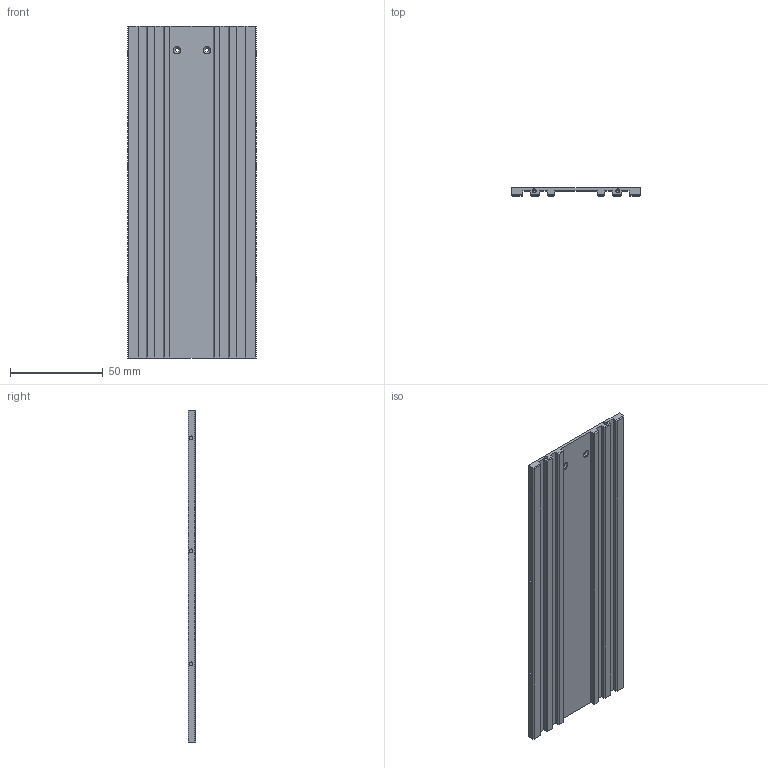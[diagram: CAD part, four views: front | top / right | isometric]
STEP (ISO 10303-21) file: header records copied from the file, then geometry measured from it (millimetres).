
FILE_DESCRIPTION (( 'STEP AP214' ), '1' );
FILE_NAME ('电池盒1-.STEP', '2026-09-29T00:54:13', ( '微软用户' ), ( '微软中国' ), 'SwSTEP 2.0', 'SolidWorks 2016', '' );
FILE_SCHEMA (( 'AUTOMOTIVE_DESIGN' ));
Length unit declared in the file: millimetre
Products named in the file (1): 萇喀碟1-
Bounding box: 69 x 4 x 178.5 mm (x, y, z)
Volume: 31445.2 mm3; surface area: 30528.3 mm2
Topology: 1 solids, 1 shells, 110 faces, 258 edges, 152 vertices
Faces by surface type: plane 50, cone 32, cylinder 28
Entity records: 3124 total; most frequent: DIRECTION 548, CARTESIAN_POINT 513, ORIENTED_EDGE 500, EDGE_CURVE 250, AXIS2_PLACEMENT_3D 187, LINE 174, VECTOR 174, VERTEX_POINT 152
